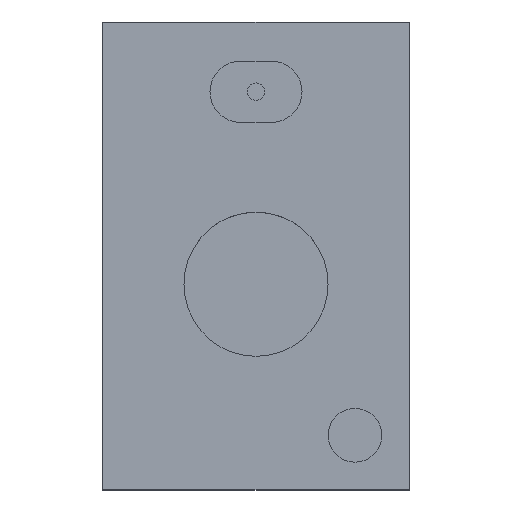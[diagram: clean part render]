
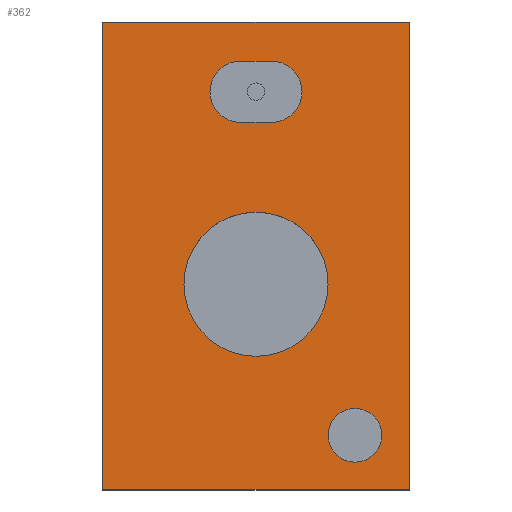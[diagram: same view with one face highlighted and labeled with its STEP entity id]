
A CAD part, top view. The second image highlights one B-rep face of the part: STEP entity #362.
In plain terms, the highlighted planar face has unit normal (0, 0, 1).
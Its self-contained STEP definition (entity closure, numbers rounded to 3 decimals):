
#33=DIRECTION('',(0.,1.,0.));
#34=VECTOR('',#33,3.05);
#35=CARTESIAN_POINT('',(-1.,-1.525,1.));
#36=LINE('',#35,#34);
#37=DIRECTION('',(1.,0.,0.));
#38=VECTOR('',#37,2.);
#39=CARTESIAN_POINT('',(-1.,1.525,1.));
#40=LINE('',#39,#38);
#41=DIRECTION('',(0.,-1.,0.));
#42=VECTOR('',#41,3.05);
#43=CARTESIAN_POINT('',(1.,1.525,1.));
#44=LINE('',#43,#42);
#45=DIRECTION('',(-1.,0.,0.));
#46=VECTOR('',#45,2.);
#47=CARTESIAN_POINT('',(1.,-1.525,1.));
#48=LINE('',#47,#46);
#49=CARTESIAN_POINT('',(0.,-0.185,1.));
#50=DIRECTION('',(0.,0.,1.));
#51=DIRECTION('',(1.,0.,0.));
#52=AXIS2_PLACEMENT_3D('',#49,#50,#51);
#54=CARTESIAN_POINT('',(0.,-0.185,1.));
#55=DIRECTION('',(0.,0.,1.));
#56=DIRECTION('',(-1.,0.,0.));
#57=AXIS2_PLACEMENT_3D('',#54,#55,#56);
#59=CARTESIAN_POINT('',(0.645,-1.17,1.));
#60=DIRECTION('',(0.,0.,1.));
#61=DIRECTION('',(1.,0.,0.));
#62=AXIS2_PLACEMENT_3D('',#59,#60,#61);
#64=CARTESIAN_POINT('',(0.645,-1.17,1.));
#65=DIRECTION('',(0.,0.,1.));
#66=DIRECTION('',(-1.,0.,0.));
#67=AXIS2_PLACEMENT_3D('',#64,#65,#66);
#69=CARTESIAN_POINT('',(-0.1,1.07,1.));
#70=DIRECTION('',(0.,0.,1.));
#71=DIRECTION('',(0.,1.,0.));
#72=AXIS2_PLACEMENT_3D('',#69,#70,#71);
#74=CARTESIAN_POINT('',(0.1,1.07,1.));
#75=DIRECTION('',(0.,0.,1.));
#76=DIRECTION('',(0.,-1.,0.));
#77=AXIS2_PLACEMENT_3D('',#74,#75,#76);
#79=CARTESIAN_POINT('',(0.1,1.07,1.));
#80=DIRECTION('',(0.,0.,1.));
#81=DIRECTION('',(1.,0.,0.));
#82=AXIS2_PLACEMENT_3D('',#79,#80,#81);
#120=DIRECTION('',(1.,0.,0.));
#121=VECTOR('',#120,0.2);
#122=CARTESIAN_POINT('',(-0.1,1.27,1.));
#123=LINE('',#122,#121);
#136=DIRECTION('',(-1.,0.,0.));
#137=VECTOR('',#136,0.2);
#138=CARTESIAN_POINT('',(0.1,0.87,1.));
#139=LINE('',#138,#137);
#203=CARTESIAN_POINT('',(-1.,1.525,1.));
#204=VERTEX_POINT('',#203);
#205=CARTESIAN_POINT('',(1.,1.525,1.));
#206=VERTEX_POINT('',#205);
#207=CARTESIAN_POINT('',(1.,-1.525,1.));
#208=VERTEX_POINT('',#207);
#209=CARTESIAN_POINT('',(-1.,-1.525,1.));
#210=VERTEX_POINT('',#209);
#211=CARTESIAN_POINT('',(0.47,-0.185,1.));
#212=CARTESIAN_POINT('',(-0.47,-0.185,1.));
#213=VERTEX_POINT('',#211);
#214=VERTEX_POINT('',#212);
#215=CARTESIAN_POINT('',(0.82,-1.17,1.));
#216=CARTESIAN_POINT('',(0.47,-1.17,1.));
#217=VERTEX_POINT('',#215);
#218=VERTEX_POINT('',#216);
#219=CARTESIAN_POINT('',(-0.1,1.27,1.));
#220=CARTESIAN_POINT('',(-0.1,0.87,1.));
#221=VERTEX_POINT('',#219);
#222=VERTEX_POINT('',#220);
#223=CARTESIAN_POINT('',(0.1,0.87,1.));
#224=VERTEX_POINT('',#223);
#225=CARTESIAN_POINT('',(0.3,1.07,1.));
#226=VERTEX_POINT('',#225);
#227=CARTESIAN_POINT('',(0.1,1.27,1.));
#228=VERTEX_POINT('',#227);
#327=CARTESIAN_POINT('',(0.,0.,1.));
#328=DIRECTION('',(0.,0.,1.));
#329=DIRECTION('',(1.,0.,0.));
#330=AXIS2_PLACEMENT_3D('',#327,#328,#329);
#331=PLANE('',#330);
#332=ORIENTED_EDGE('',*,*,#279,.T.);
#333=ORIENTED_EDGE('',*,*,#294,.T.);
#334=ORIENTED_EDGE('',*,*,#308,.T.);
#335=ORIENTED_EDGE('',*,*,#321,.T.);
#336=EDGE_LOOP('',(#332,#333,#334,#335));
#337=FACE_OUTER_BOUND('',#336,.F.);
#339=ORIENTED_EDGE('',*,*,#338,.T.);
#341=ORIENTED_EDGE('',*,*,#340,.T.);
#342=EDGE_LOOP('',(#339,#341));
#343=FACE_BOUND('',#342,.F.);
#345=ORIENTED_EDGE('',*,*,#344,.T.);
#347=ORIENTED_EDGE('',*,*,#346,.T.);
#348=EDGE_LOOP('',(#345,#347));
#349=FACE_BOUND('',#348,.F.);
#351=ORIENTED_EDGE('',*,*,#350,.T.);
#353=ORIENTED_EDGE('',*,*,#352,.F.);
#355=ORIENTED_EDGE('',*,*,#354,.T.);
#357=ORIENTED_EDGE('',*,*,#356,.T.);
#359=ORIENTED_EDGE('',*,*,#358,.F.);
#360=EDGE_LOOP('',(#351,#353,#355,#357,#359));
#361=FACE_BOUND('',#360,.F.);
#53=CIRCLE('',#52,0.47);
#58=CIRCLE('',#57,0.47);
#63=CIRCLE('',#62,0.175);
#68=CIRCLE('',#67,0.175);
#73=CIRCLE('',#72,0.2);
#78=CIRCLE('',#77,0.2);
#83=CIRCLE('',#82,0.2);
#279=EDGE_CURVE('',#210,#204,#36,.T.);
#294=EDGE_CURVE('',#204,#206,#40,.T.);
#308=EDGE_CURVE('',#206,#208,#44,.T.);
#321=EDGE_CURVE('',#208,#210,#48,.T.);
#338=EDGE_CURVE('',#213,#214,#53,.T.);
#340=EDGE_CURVE('',#214,#213,#58,.T.);
#344=EDGE_CURVE('',#217,#218,#63,.T.);
#346=EDGE_CURVE('',#218,#217,#68,.T.);
#350=EDGE_CURVE('',#221,#222,#73,.T.);
#352=EDGE_CURVE('',#224,#222,#139,.T.);
#354=EDGE_CURVE('',#224,#226,#78,.T.);
#356=EDGE_CURVE('',#226,#228,#83,.T.);
#358=EDGE_CURVE('',#221,#228,#123,.T.);
#362=ADVANCED_FACE('',(#337,#343,#349,#361),#331,.T.);
